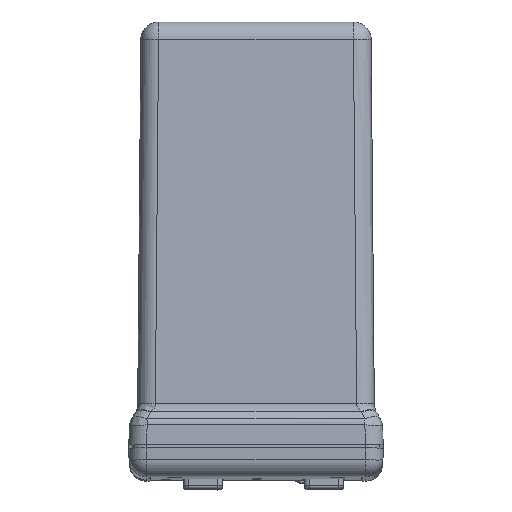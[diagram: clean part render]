
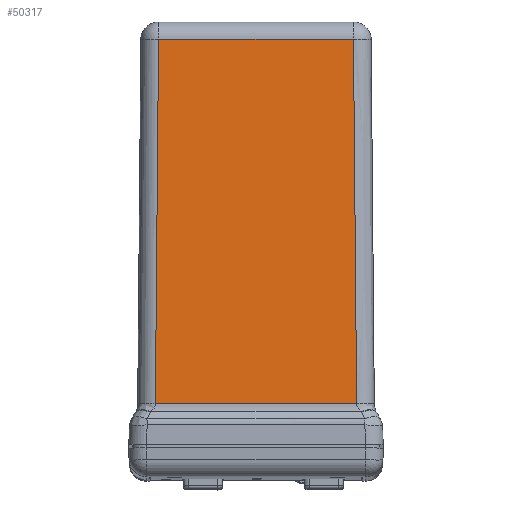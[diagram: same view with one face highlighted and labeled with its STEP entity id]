
A CAD part, top view. The second image highlights one B-rep face of the part: STEP entity #50317.
In plain terms, the highlighted planar face has unit normal (0, 0.035, 0.999) as drawn and (0, 0.999, -0.035) by its records, which use the part's own axes.
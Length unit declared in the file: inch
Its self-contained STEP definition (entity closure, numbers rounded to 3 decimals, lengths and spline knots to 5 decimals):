
#20931=CARTESIAN_POINT('',(1.42439,3.12277,
-0.44988));
#20962=DIRECTION('',(-1.,0.,0.));
#20963=VECTOR('',#20962,2.84879);
#20964=CARTESIAN_POINT('',(1.42439,3.12277,
-0.44988));
#20965=LINE('',#20964,#20963);
#20986=CARTESIAN_POINT('',(-1.4244,3.12277,
-0.44992));
#22726=CARTESIAN_POINT('',(1.42439,3.12277,
-0.44988));
#22727=CARTESIAN_POINT('',(1.41938,3.10276,
-1.0231));
#22728=CARTESIAN_POINT('',(1.40941,3.06272,
-2.16957));
#22729=CARTESIAN_POINT('',(1.39436,3.00267,
-3.88915));
#22730=CARTESIAN_POINT('',(1.38435,2.96264,
-5.03554));
#22731=CARTESIAN_POINT('',(1.37934,2.94263,
-5.60872));
#22759=DIRECTION('',(1.,0.,0.));
#22760=VECTOR('',#22759,2.75869);
#22761=CARTESIAN_POINT('',(-1.37934,2.94263,
-5.60872));
#22762=LINE('',#22761,#22760);
#22774=CARTESIAN_POINT('',(-1.4244,3.12277,
-0.44992));
#22775=CARTESIAN_POINT('',(-1.40938,3.06273,
-2.16952));
#22776=CARTESIAN_POINT('',(-1.39437,3.00267,
-3.88912));
#22777=CARTESIAN_POINT('',(-1.37934,2.94263,
-5.60872));
#39659=VERTEX_POINT('',#20931);
#39673=VERTEX_POINT('',#20986);
#39728=CARTESIAN_POINT('',(1.37934,2.94263,
-5.60872));
#39729=VERTEX_POINT('',#39728);
#39732=CARTESIAN_POINT('',(-1.37934,2.94263,
-5.60872));
#39733=VERTEX_POINT('',#39732);
#50305=CARTESIAN_POINT('',(1.79414,3.125,-0.38619));
#50306=DIRECTION('',(0.,0.999,-0.035));
#50307=DIRECTION('',(1.,0.,0.));
#50308=AXIS2_PLACEMENT_3D('',#50305,#50306,#50307);
#50309=PLANE('',#50308);
#50310=ORIENTED_EDGE('',*,*,#50298,.T.);
#50311=ORIENTED_EDGE('',*,*,#50274,.F.);
#50312=ORIENTED_EDGE('',*,*,#48189,.T.);
#50314=ORIENTED_EDGE('',*,*,#50313,.T.);
#50315=EDGE_LOOP('',(#50310,#50311,#50312,#50314));
#50316=FACE_OUTER_BOUND('',#50315,.F.);
#50317=ADVANCED_FACE('',(#50316),#50309,.T.);
#22732=B_SPLINE_CURVE_WITH_KNOTS('',3,(#22726,#22727,#22728,#22729,#22730,
#22731),.UNSPECIFIED.,.F.,.F.,(4,1,1,4),(0.,0.33333,
0.66667,1.),.UNSPECIFIED.);
#22778=B_SPLINE_CURVE_WITH_KNOTS('',3,(#22774,#22775,#22776,#22777),
.UNSPECIFIED.,.F.,.F.,(4,4),(0.,1.),.UNSPECIFIED.);
#48189=EDGE_CURVE('',#39659,#39673,#20965,.T.);
#50274=EDGE_CURVE('',#39659,#39729,#22732,.T.);
#50298=EDGE_CURVE('',#39733,#39729,#22762,.T.);
#50313=EDGE_CURVE('',#39673,#39733,#22778,.T.);
